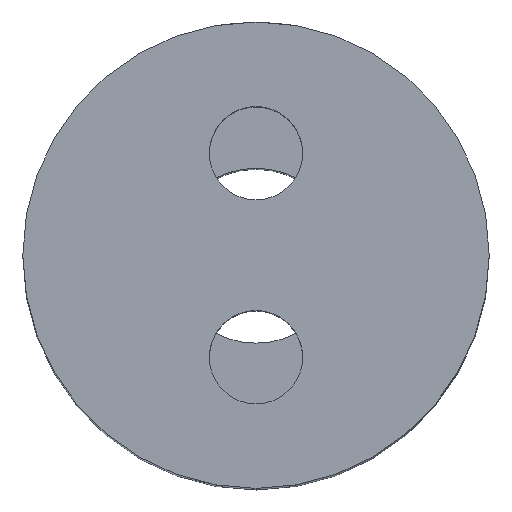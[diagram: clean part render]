
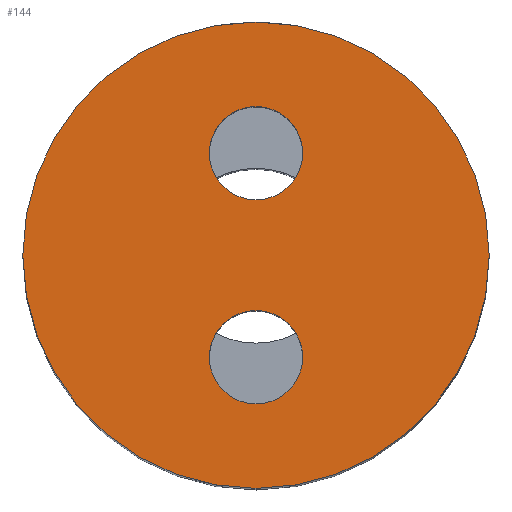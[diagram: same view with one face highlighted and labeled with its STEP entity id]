
A CAD part, top view. The second image highlights one B-rep face of the part: STEP entity #144.
In plain terms, the highlighted planar face has unit normal (0, 0, 1).
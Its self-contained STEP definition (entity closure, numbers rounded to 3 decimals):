
#31 = VERTEX_POINT('',#32);
#32 = CARTESIAN_POINT('',(139.,200.,228.5));
#38 = EDGE_CURVE('',#31,#31,#39,.T.);
#39 = CIRCLE('',#40,4.);
#40 = AXIS2_PLACEMENT_3D('',#41,#42,#43);
#41 = CARTESIAN_POINT('',(135.,200.,228.5));
#42 = DIRECTION('',(0.,0.,1.));
#43 = DIRECTION('',(1.,0.,0.));
#144 = ADVANCED_FACE('',(#145,#148,#159),#170,.T.);
#145 = FACE_BOUND('',#146,.T.);
#146 = EDGE_LOOP('',(#147));
#147 = ORIENTED_EDGE('',*,*,#38,.T.);
#148 = FACE_BOUND('',#149,.T.);
#149 = EDGE_LOOP('',(#150));
#150 = ORIENTED_EDGE('',*,*,#151,.F.);
#151 = EDGE_CURVE('',#152,#152,#154,.T.);
#152 = VERTEX_POINT('',#153);
#153 = CARTESIAN_POINT('',(134.2,198.25,228.5));
#154 = CIRCLE('',#155,0.8);
#155 = AXIS2_PLACEMENT_3D('',#156,#157,#158);
#156 = CARTESIAN_POINT('',(135.,198.25,228.5));
#157 = DIRECTION('',(0.,0.,1.));
#158 = DIRECTION('',(-1.,0.,0.));
#159 = FACE_BOUND('',#160,.T.);
#160 = EDGE_LOOP('',(#161));
#161 = ORIENTED_EDGE('',*,*,#162,.F.);
#162 = EDGE_CURVE('',#163,#163,#165,.T.);
#163 = VERTEX_POINT('',#164);
#164 = CARTESIAN_POINT('',(134.2,201.75,228.5));
#165 = CIRCLE('',#166,0.8);
#166 = AXIS2_PLACEMENT_3D('',#167,#168,#169);
#167 = CARTESIAN_POINT('',(135.,201.75,228.5));
#168 = DIRECTION('',(0.,0.,1.));
#169 = DIRECTION('',(-1.,0.,0.));
#170 = PLANE('',#171);
#171 = AXIS2_PLACEMENT_3D('',#172,#173,#174);
#172 = CARTESIAN_POINT('',(135.,200.,228.5));
#173 = DIRECTION('',(0.,0.,1.));
#174 = DIRECTION('',(1.,0.,0.));
